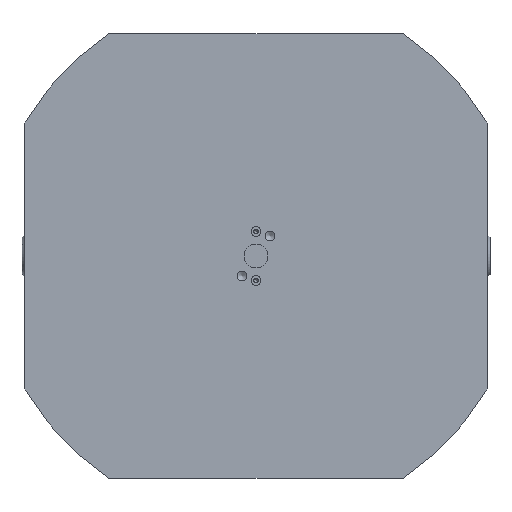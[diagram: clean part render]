
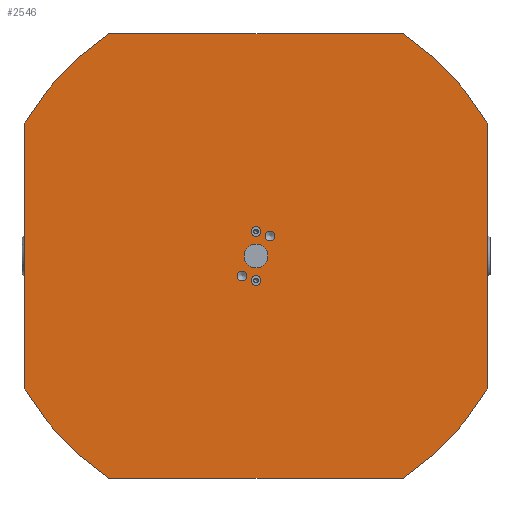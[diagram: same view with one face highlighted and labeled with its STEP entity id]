
A CAD part, front view. The second image highlights one B-rep face of the part: STEP entity #2546.
In plain terms, the highlighted planar face has unit normal (0, -1, 0).
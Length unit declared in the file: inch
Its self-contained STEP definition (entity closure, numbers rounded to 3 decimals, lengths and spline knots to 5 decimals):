
#73 = VECTOR ( 'NONE', #1832, 39.37008 ) ;
#92 = VERTEX_POINT ( 'NONE', #1534 ) ;
#222 = AXIS2_PLACEMENT_3D ( 'NONE', #2063, #485, #9012 ) ;
#316 = ORIENTED_EDGE ( 'NONE', *, *, #2012, .F. ) ;
#426 = CARTESIAN_POINT ( 'NONE',  ( 0., 0., -0.158 ) ) ;
#430 = AXIS2_PLACEMENT_3D ( 'NONE', #8995, #670, #8345 ) ;
#485 = DIRECTION ( 'NONE',  ( 0., 1., 0. ) ) ;
#529 = ORIENTED_EDGE ( 'NONE', *, *, #5147, .F. ) ;
#670 = DIRECTION ( 'NONE',  ( 0., -1., 0. ) ) ;
#788 = CARTESIAN_POINT ( 'NONE',  ( 0., 0., 0. ) ) ;
#805 = CARTESIAN_POINT ( 'NONE',  ( 0., 0., 0. ) ) ;
#822 = CARTESIAN_POINT ( 'NONE',  ( 1.95864, 0., 2.95276 ) ) ;
#858 = CIRCLE ( 'NONE', #2155, 0.06496 ) ;
#887 = VERTEX_POINT ( 'NONE', #4666 ) ;
#913 = VERTEX_POINT ( 'NONE', #8415 ) ;
#1302 = CARTESIAN_POINT ( 'NONE',  ( 0., 0., -0.26004 ) ) ;
#1374 = AXIS2_PLACEMENT_3D ( 'NONE', #2140, #8335, #2082 ) ;
#1498 = DIRECTION ( 'NONE',  ( 0., 0., 1. ) ) ;
#1520 = EDGE_CURVE ( 'NONE', #8446, #5747, #3756, .T. ) ;
#1530 = EDGE_LOOP ( 'NONE', ( #1908 ) ) ;
#1534 = CARTESIAN_POINT ( 'NONE',  ( 1.95864, 0., -2.95276 ) ) ;
#1609 = VERTEX_POINT ( 'NONE', #6894 ) ;
#1613 = VERTEX_POINT ( 'NONE', #9983 ) ;
#1832 = DIRECTION ( 'NONE',  ( -1., 0., 0. ) ) ;
#1902 = DIRECTION ( 'NONE',  ( 0., 0., -1. ) ) ;
#1906 = EDGE_LOOP ( 'NONE', ( #2318 ) ) ;
#1908 = ORIENTED_EDGE ( 'NONE', *, *, #5294, .F. ) ;
#2012 = EDGE_CURVE ( 'NONE', #7236, #7236, #5568, .T. ) ;
#2063 = CARTESIAN_POINT ( 'NONE',  ( 0., 0., 0. ) ) ;
#2082 = DIRECTION ( 'NONE',  ( 0., 0., 1. ) ) ;
#2113 = ORIENTED_EDGE ( 'NONE', *, *, #6352, .T. ) ;
#2140 = CARTESIAN_POINT ( 'NONE',  ( 0., 0., 0. ) ) ;
#2155 = AXIS2_PLACEMENT_3D ( 'NONE', #6158, #4412, #1498 ) ;
#2194 = CARTESIAN_POINT ( 'NONE',  ( -3.07087, 0., -1.76771 ) ) ;
#2200 = VERTEX_POINT ( 'NONE', #2991 ) ;
#2318 = ORIENTED_EDGE ( 'NONE', *, *, #9592, .T. ) ;
#2408 = DIRECTION ( 'NONE',  ( 0., 0., -1. ) ) ;
#2546 = ADVANCED_FACE ( 'NONE', ( #5784, #9755, #9811, #2763, #5894, #8989 ), #8877, .F. ) ;
#2567 = CARTESIAN_POINT ( 'NONE',  ( -1.95864, 0., 2.95276 ) ) ;
#2667 = LINE ( 'NONE', #4042, #73 ) ;
#2738 = DIRECTION ( 'NONE',  ( 0., -1., 0. ) ) ;
#2763 = FACE_OUTER_BOUND ( 'NONE', #8292, .T. ) ;
#2839 = ORIENTED_EDGE ( 'NONE', *, *, #4123, .F. ) ;
#2930 = CARTESIAN_POINT ( 'NONE',  ( -0.18641, 0., -0.33119 ) ) ;
#2991 = CARTESIAN_POINT ( 'NONE',  ( 0.18641, 0., 0.20126 ) ) ;
#3113 = CARTESIAN_POINT ( 'NONE',  ( 0.18641, 0., 0.26622 ) ) ;
#3140 = VECTOR ( 'NONE', #6587, 39.37008 ) ;
#3348 = DIRECTION ( 'NONE',  ( 0., 0., 1. ) ) ;
#3544 = AXIS2_PLACEMENT_3D ( 'NONE', #3113, #2738, #1902 ) ;
#3701 = ORIENTED_EDGE ( 'NONE', *, *, #8129, .F. ) ;
#3756 = CIRCLE ( 'NONE', #222, 3.54331 ) ;
#3799 = LINE ( 'NONE', #6047, #5016 ) ;
#3861 = DIRECTION ( 'NONE',  ( 0., 1., 0. ) ) ;
#4042 = CARTESIAN_POINT ( 'NONE',  ( -3.07087, 0., -2.95276 ) ) ;
#4123 = EDGE_CURVE ( 'NONE', #1609, #1613, #6438, .T. ) ;
#4286 = CARTESIAN_POINT ( 'NONE',  ( -3.07087, 0., 2.95276 ) ) ;
#4326 = CIRCLE ( 'NONE', #7774, 0.06496 ) ;
#4412 = DIRECTION ( 'NONE',  ( 0., 1., 0. ) ) ;
#4452 = EDGE_CURVE ( 'NONE', #7940, #1609, #7230, .T. ) ;
#4494 = DIRECTION ( 'NONE',  ( 0., 1., 0. ) ) ;
#4512 = ORIENTED_EDGE ( 'NONE', *, *, #7189, .F. ) ;
#4666 = CARTESIAN_POINT ( 'NONE',  ( 0., 0., 0.38996 ) ) ;
#5016 = VECTOR ( 'NONE', #8439, 39.37008 ) ;
#5023 = CARTESIAN_POINT ( 'NONE',  ( 0., 0., 0. ) ) ;
#5147 = EDGE_CURVE ( 'NONE', #1613, #92, #7569, .T. ) ;
#5226 = VERTEX_POINT ( 'NONE', #1302 ) ;
#5260 = CARTESIAN_POINT ( 'NONE',  ( 0., 0., 0.325 ) ) ;
#5294 = EDGE_CURVE ( 'NONE', #6823, #6823, #9356, .T. ) ;
#5457 = AXIS2_PLACEMENT_3D ( 'NONE', #788, #3861, #6982 ) ;
#5532 = EDGE_CURVE ( 'NONE', #92, #913, #2667, .T. ) ;
#5568 = CIRCLE ( 'NONE', #5697, 0.158 ) ;
#5622 = CARTESIAN_POINT ( 'NONE',  ( 3.07087, 0., -2.95276 ) ) ;
#5697 = AXIS2_PLACEMENT_3D ( 'NONE', #7998, #7237, #2408 ) ;
#5747 = VERTEX_POINT ( 'NONE', #2567 ) ;
#5784 = FACE_BOUND ( 'NONE', #8963, .T. ) ;
#5837 = CIRCLE ( 'NONE', #6995, 3.54331 ) ;
#5894 = FACE_BOUND ( 'NONE', #1530, .T. ) ;
#6047 = CARTESIAN_POINT ( 'NONE',  ( -3.07087, 0., -2.95276 ) ) ;
#6126 = DIRECTION ( 'NONE',  ( 0., 1., 0. ) ) ;
#6158 = CARTESIAN_POINT ( 'NONE',  ( 0., 0., -0.325 ) ) ;
#6215 = ORIENTED_EDGE ( 'NONE', *, *, #4452, .F. ) ;
#6352 = EDGE_CURVE ( 'NONE', #5226, #5226, #858, .T. ) ;
#6438 = LINE ( 'NONE', #5622, #3140 ) ;
#6587 = DIRECTION ( 'NONE',  ( 0., 0., -1. ) ) ;
#6653 = DIRECTION ( 'NONE',  ( 1., 0., 0. ) ) ;
#6756 = DIRECTION ( 'NONE',  ( 0., 0., 1. ) ) ;
#6823 = VERTEX_POINT ( 'NONE', #2930 ) ;
#6894 = CARTESIAN_POINT ( 'NONE',  ( 3.07087, 0., 1.76771 ) ) ;
#6982 = DIRECTION ( 'NONE',  ( 0., 0., 1. ) ) ;
#6995 = AXIS2_PLACEMENT_3D ( 'NONE', #5023, #8954, #3348 ) ;
#6996 = VERTEX_POINT ( 'NONE', #2194 ) ;
#7067 = CARTESIAN_POINT ( 'NONE',  ( -3.07087, 0., 1.76771 ) ) ;
#7167 = EDGE_CURVE ( 'NONE', #2200, #2200, #8277, .T. ) ;
#7189 = EDGE_CURVE ( 'NONE', #913, #6996, #5837, .T. ) ;
#7230 = CIRCLE ( 'NONE', #8040, 3.54331 ) ;
#7236 = VERTEX_POINT ( 'NONE', #426 ) ;
#7237 = DIRECTION ( 'NONE',  ( 0., -1., 0. ) ) ;
#7461 = EDGE_CURVE ( 'NONE', #5747, #7940, #8233, .T. ) ;
#7569 = CIRCLE ( 'NONE', #5457, 3.54331 ) ;
#7769 = EDGE_LOOP ( 'NONE', ( #2113 ) ) ;
#7774 = AXIS2_PLACEMENT_3D ( 'NONE', #5260, #4494, #6756 ) ;
#7940 = VERTEX_POINT ( 'NONE', #822 ) ;
#7998 = CARTESIAN_POINT ( 'NONE',  ( 0., 0., 0. ) ) ;
#8040 = AXIS2_PLACEMENT_3D ( 'NONE', #805, #6126, #9230 ) ;
#8129 = EDGE_CURVE ( 'NONE', #6996, #8446, #3799, .T. ) ;
#8233 = LINE ( 'NONE', #4286, #8920 ) ;
#8277 = CIRCLE ( 'NONE', #3544, 0.06496 ) ;
#8292 = EDGE_LOOP ( 'NONE', ( #6215, #8958, #9635, #3701, #4512, #8712, #529, #2839 ) ) ;
#8335 = DIRECTION ( 'NONE',  ( 0., 1., 0. ) ) ;
#8345 = DIRECTION ( 'NONE',  ( 0., 0., -1. ) ) ;
#8415 = CARTESIAN_POINT ( 'NONE',  ( -1.95864, 0., -2.95276 ) ) ;
#8439 = DIRECTION ( 'NONE',  ( 0., 0., 1. ) ) ;
#8446 = VERTEX_POINT ( 'NONE', #7067 ) ;
#8526 = EDGE_LOOP ( 'NONE', ( #9529 ) ) ;
#8712 = ORIENTED_EDGE ( 'NONE', *, *, #5532, .F. ) ;
#8877 = PLANE ( 'NONE',  #1374 ) ;
#8920 = VECTOR ( 'NONE', #6653, 39.37008 ) ;
#8954 = DIRECTION ( 'NONE',  ( 0., 1., 0. ) ) ;
#8958 = ORIENTED_EDGE ( 'NONE', *, *, #7461, .F. ) ;
#8963 = EDGE_LOOP ( 'NONE', ( #316 ) ) ;
#8989 = FACE_BOUND ( 'NONE', #8526, .T. ) ;
#8995 = CARTESIAN_POINT ( 'NONE',  ( -0.18641, 0., -0.26622 ) ) ;
#9012 = DIRECTION ( 'NONE',  ( 0., 0., 1. ) ) ;
#9230 = DIRECTION ( 'NONE',  ( 0., 0., 1. ) ) ;
#9356 = CIRCLE ( 'NONE', #430, 0.06496 ) ;
#9529 = ORIENTED_EDGE ( 'NONE', *, *, #7167, .F. ) ;
#9592 = EDGE_CURVE ( 'NONE', #887, #887, #4326, .T. ) ;
#9635 = ORIENTED_EDGE ( 'NONE', *, *, #1520, .F. ) ;
#9755 = FACE_BOUND ( 'NONE', #7769, .T. ) ;
#9811 = FACE_BOUND ( 'NONE', #1906, .T. ) ;
#9983 = CARTESIAN_POINT ( 'NONE',  ( 3.07087, 0., -1.76771 ) ) ;
